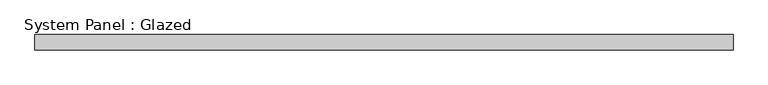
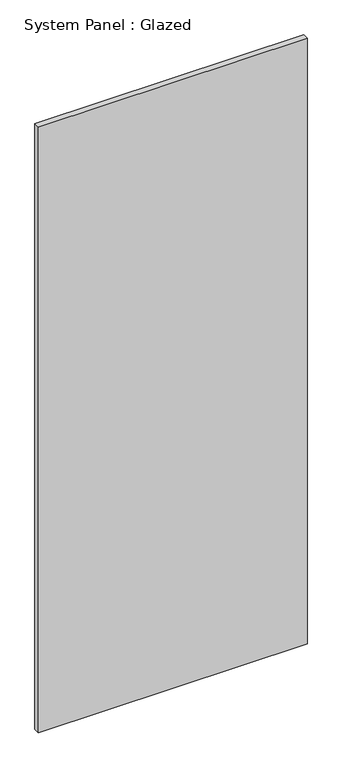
"""IFC4 building model written with IfcOpenShell, lengths in millimetres: plate geometry, System Panel : Glazed."""

from ifc_helpers import new_model, si_unit, origin, origin_with_axes, place, context, project, spatial, polyline, outline, extrude, source, transform, mapped, element, save


def system_panel_glazed_97d6132a(model_context):
    return source(origin(), model_context, "Body", "SweptSolid", [
        extrude(outline(polyline([(587.4999997, -44.45), (-587.4999997, -44.45), (-587.4999997, -19.05), (587.4999997, -19.05), (587.4999997, -44.45)])), origin_with_axes(), (0.0, 0.0, 1.0), 2800.0),
    ])


if __name__ == "__main__":
    model = new_model("IFC4")
    model_context = context("Model", 3, world=origin())
    ifc_project = project(units=[si_unit("LENGTHUNIT", "METRE", prefix="MILLI")], contexts=[model_context])
    site = spatial("IfcSite", under=ifc_project)
    building = spatial("IfcBuilding", under=site)
    placement = place(None, origin())
    system_panel_glazed_shape = system_panel_glazed_97d6132a(model_context)
    element("IfcPlate", 1, ObjectType="System Panel : Glazed", at=placement, inside=building, context=model_context, shape_type="MappedRepresentation", body=[
        mapped(system_panel_glazed_shape, transform((0.0, 0.0, 0.0), x_axis=(1.0, 0.0, 0.0), y_axis=(0.0, 1.0, 0.0), z_axis=(0.0, 0.0, 1.0))),
    ])
    save(model, "model.ifc")
